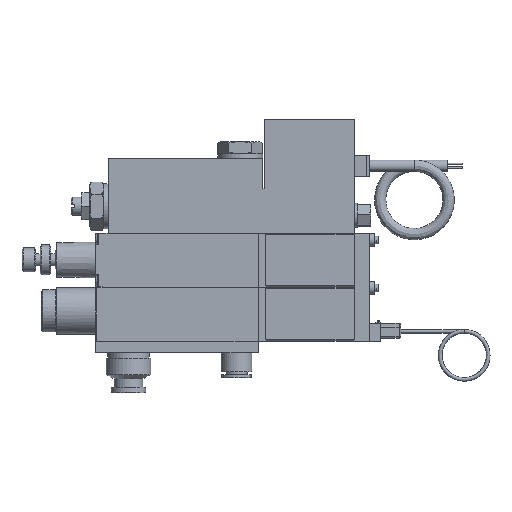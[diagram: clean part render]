
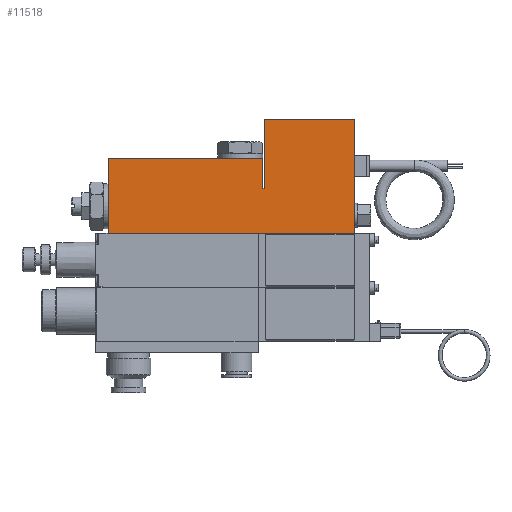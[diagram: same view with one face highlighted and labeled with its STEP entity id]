
A CAD part, top view. The second image highlights one B-rep face of the part: STEP entity #11518.
In plain terms, the highlighted planar face has unit normal (0, 0, 1).
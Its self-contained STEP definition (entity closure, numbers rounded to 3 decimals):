
#568=LINE('',#16503,#1622);
#569=LINE('',#16505,#1623);
#570=LINE('',#16507,#1624);
#571=LINE('',#16509,#1625);
#572=LINE('',#16511,#1626);
#573=LINE('',#16513,#1627);
#574=LINE('',#16515,#1628);
#575=LINE('',#16516,#1629);
#1622=VECTOR('',#13309,10.);
#1623=VECTOR('',#13310,10.);
#1624=VECTOR('',#13311,10.);
#1625=VECTOR('',#13312,10.);
#1626=VECTOR('',#13313,10.);
#1627=VECTOR('',#13314,10.);
#1628=VECTOR('',#13315,10.);
#1629=VECTOR('',#13316,10.);
#2678=FACE_OUTER_BOUND('',#3369,.T.);
#3369=EDGE_LOOP('',(#7136,#7137,#7138,#7139,#7140,#7141,#7142,#7143));
#4522=VERTEX_POINT('',#16501);
#4523=VERTEX_POINT('',#16502);
#4524=VERTEX_POINT('',#16504);
#4525=VERTEX_POINT('',#16506);
#4526=VERTEX_POINT('',#16508);
#4527=VERTEX_POINT('',#16510);
#4528=VERTEX_POINT('',#16512);
#4529=VERTEX_POINT('',#16514);
#5556=EDGE_CURVE('',#4522,#4523,#568,.T.);
#5557=EDGE_CURVE('',#4524,#4522,#569,.T.);
#5558=EDGE_CURVE('',#4525,#4524,#570,.T.);
#5559=EDGE_CURVE('',#4526,#4525,#571,.T.);
#5560=EDGE_CURVE('',#4526,#4527,#572,.T.);
#5561=EDGE_CURVE('',#4528,#4527,#573,.T.);
#5562=EDGE_CURVE('',#4529,#4528,#574,.T.);
#5563=EDGE_CURVE('',#4523,#4529,#575,.T.);
#7136=ORIENTED_EDGE('',*,*,#5556,.F.);
#7137=ORIENTED_EDGE('',*,*,#5557,.F.);
#7138=ORIENTED_EDGE('',*,*,#5558,.F.);
#7139=ORIENTED_EDGE('',*,*,#5559,.F.);
#7140=ORIENTED_EDGE('',*,*,#5560,.T.);
#7141=ORIENTED_EDGE('',*,*,#5561,.F.);
#7142=ORIENTED_EDGE('',*,*,#5562,.F.);
#7143=ORIENTED_EDGE('',*,*,#5563,.F.);
#10328=PLANE('',#12231);
#11518=ADVANCED_FACE('',(#2678),#10328,.F.);
#12231=AXIS2_PLACEMENT_3D('',#16500,#13307,#13308);
#13307=DIRECTION('center_axis',(0.,0.,
-1.));
#13308=DIRECTION('ref_axis',(-1.,0.,0.));
#13309=DIRECTION('',(1.,0.,0.));
#13310=DIRECTION('',(0.,1.,0.));
#13311=DIRECTION('',(-1.,0.,0.));
#13312=DIRECTION('',(0.,-1.,0.));
#13313=DIRECTION('',(-1.,0.,0.));
#13314=DIRECTION('',(0.,1.,0.));
#13315=DIRECTION('',(1.,0.,0.));
#13316=DIRECTION('',(0.,-1.,0.));
#16500=CARTESIAN_POINT('Origin',(73.,12.,15.));
#16501=CARTESIAN_POINT('',(0.,25.,15.));
#16502=CARTESIAN_POINT('',(51.5,25.,15.));
#16503=CARTESIAN_POINT('',(0.,25.,15.));
#16504=CARTESIAN_POINT('',(0.,0.,15.));
#16505=CARTESIAN_POINT('',(0.,0.,15.));
#16506=CARTESIAN_POINT('',(82.,0.,15.));
#16507=CARTESIAN_POINT('',(82.,0.,15.));
#16508=CARTESIAN_POINT('',(82.,38.,15.));
#16509=CARTESIAN_POINT('',(82.,15.,15.));
#16510=CARTESIAN_POINT('',(52.,38.,15.));
#16511=CARTESIAN_POINT('',(82.,38.,15.));
#16512=CARTESIAN_POINT('',(52.,15.,15.));
#16513=CARTESIAN_POINT('',(52.,15.,15.));
#16514=CARTESIAN_POINT('',(51.5,15.,15.));
#16515=CARTESIAN_POINT('',(51.5,15.,15.));
#16516=CARTESIAN_POINT('',(51.5,25.,15.));
